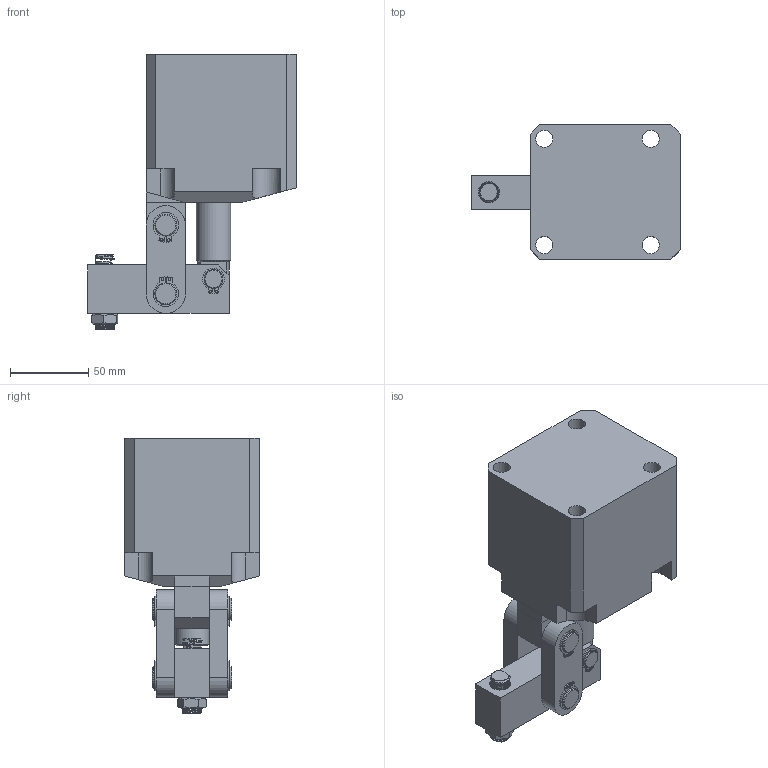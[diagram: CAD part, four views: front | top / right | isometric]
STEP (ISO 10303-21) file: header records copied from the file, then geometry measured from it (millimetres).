
FILE_DESCRIPTION(/* description */ ('STEP AP214'),/* implementation_level */ '2;1');
FILE_NAME(/* name */ 'D:\Vault_2016\Projekty\Clamptek\Hydraulic\CBLU\CBLU-55\STEP\CBLU-55.stp',/* time_stamp */ '2021-05-06T12:48:03+02:00',/* author */ ('user'),/* organization */ (''),/* preprocessor_version */ 'ST-DEVELOPER v18.1',/* originating_system */ 'Autodesk Inventor 2021',/* authorisation */ '');
FILE_SCHEMA (('AUTOMOTIVE_DESIGN { 1 0 10303 214 3 1 1 }'));
Products named in the file (11): CBLU-55; CBLU-55C±¾Ìå_1_1_1_1; duanxiao; huosaigan_4_1; yabi; liangan; changxiao; kahuang; kahuang01; luogan; luomu
Assembly tree (16 placements, depth 2):
  CBLU-55
    CBLU-55C±¾Ìå_1_1_1_1
    changxiao  x2
    duanxiao
    huosaigan_4_1
    liangan  x2
    yabi
    kahuang  x4
    kahuang01  x2
    luogan
    luomu
Bounding box: 133.5 x 86 x 176.61 mm (x, y, z)
Volume: 691057.7 mm3; surface area: 128041.3 mm2
Topology: 17 solids, 158 shells, 443 faces, 1299 edges, 1039 vertices
Faces by surface type: cylinder 262, plane 139, cone 25, bspline 17
Full cylindrical faces by diameter (mm): 1.479 x4, 1.725 x8, 4 x3, 11 x24, 11.5 x7, 12 x8, 13 x4, 14 x11, 22 x2, 33.511 x1, 34.766 x1, 55 x2
Entity records: 89580 total; most frequent: CARTESIAN_POINT 80174, ORIENTED_EDGE 1624, DIRECTION 1503, EDGE_CURVE 1088, VERTEX_POINT 900, AXIS2_PLACEMENT_3D 535, B_SPLINE_CURVE_WITH_KNOTS 470, LINE 433
